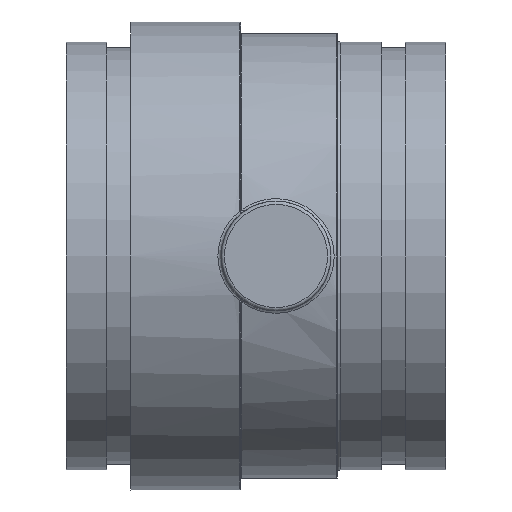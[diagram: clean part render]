
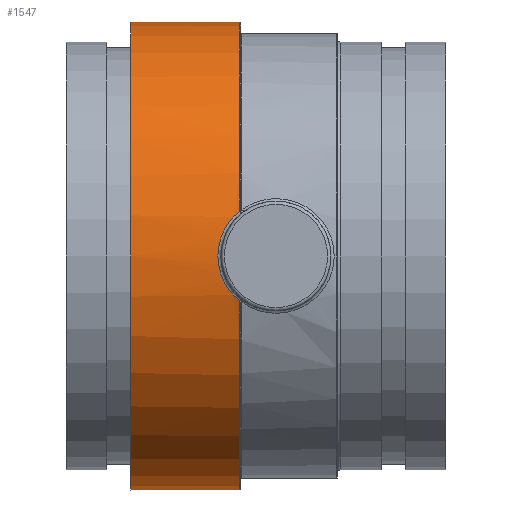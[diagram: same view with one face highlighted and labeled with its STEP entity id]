
A CAD part, front view. The second image highlights one B-rep face of the part: STEP entity #1547.
In plain terms, the highlighted cylindrical face has radius 92.075 mm (diameter 184.15 mm), a full revolution.
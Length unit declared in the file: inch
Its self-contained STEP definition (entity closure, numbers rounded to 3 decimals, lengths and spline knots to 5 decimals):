
#83=B_SPLINE_CURVE_WITH_KNOTS('',3,(#3012,#3013,#3014,#3015,#3016),
 .UNSPECIFIED.,.F.,.F.,(4,1,4),(-4.12867,-2.94905,-2.06457),
 .UNSPECIFIED.);
#84=B_SPLINE_CURVE_WITH_KNOTS('',3,(#3017,#3018,#3019,#3020,#3021,#3022),
 .UNSPECIFIED.,.F.,.F.,(4,1,1,4),(-2.06457,-1.76943,-0.58981,
0.),.UNSPECIFIED.);
#90=B_SPLINE_CURVE_WITH_KNOTS('',3,(#3196,#3197,#3198,#3199,#3200),
 .UNSPECIFIED.,.F.,.F.,(4,1,4),(0.,0.10365,0.24185),
 .UNSPECIFIED.);
#91=B_SPLINE_CURVE_WITH_KNOTS('',3,(#3204,#3205,#3206,#3207,#3208),
 .UNSPECIFIED.,.F.,.F.,(4,1,4),(0.,0.10365,0.24185),
 .UNSPECIFIED.);
#197=FACE_OUTER_BOUND('',#291,.T.);
#291=EDGE_LOOP('',(#1181,#1182,#1183,#1184,#1185,#1186,#1187,#1188,#1189,
#1190,#1191,#1192,#1193));
#395=LINE('',#3194,#460);
#396=LINE('',#3210,#461);
#397=LINE('',#3213,#462);
#460=VECTOR('',#2079,0.3937);
#461=VECTOR('',#2082,0.3937);
#462=VECTOR('',#2085,3.625);
#533=CIRCLE('',#1710,3.625);
#534=CIRCLE('',#1711,3.625);
#535=CIRCLE('',#1712,3.625);
#536=CIRCLE('',#1713,3.625);
#537=CIRCLE('',#1714,3.625);
#663=VERTEX_POINT('',#2949);
#665=VERTEX_POINT('',#3009);
#666=VERTEX_POINT('',#3011);
#686=VERTEX_POINT('',#3191);
#687=VERTEX_POINT('',#3193);
#688=VERTEX_POINT('',#3195);
#689=VERTEX_POINT('',#3201);
#690=VERTEX_POINT('',#3203);
#691=VERTEX_POINT('',#3209);
#692=VERTEX_POINT('',#3212);
#693=VERTEX_POINT('',#3214);
#837=EDGE_CURVE('',#665,#666,#83,.T.);
#838=EDGE_CURVE('',#666,#663,#84,.T.);
#870=EDGE_CURVE('',#686,#665,#533,.T.);
#871=EDGE_CURVE('',#687,#686,#395,.T.);
#872=EDGE_CURVE('',#688,#687,#90,.T.);
#873=EDGE_CURVE('',#689,#688,#534,.T.);
#874=EDGE_CURVE('',#690,#689,#91,.T.);
#875=EDGE_CURVE('',#691,#690,#396,.T.);
#876=EDGE_CURVE('',#663,#691,#535,.T.);
#877=EDGE_CURVE('',#666,#692,#397,.T.);
#878=EDGE_CURVE('',#692,#693,#536,.T.);
#879=EDGE_CURVE('',#693,#692,#537,.T.);
#1181=ORIENTED_EDGE('',*,*,#837,.F.);
#1182=ORIENTED_EDGE('',*,*,#870,.F.);
#1183=ORIENTED_EDGE('',*,*,#871,.F.);
#1184=ORIENTED_EDGE('',*,*,#872,.F.);
#1185=ORIENTED_EDGE('',*,*,#873,.F.);
#1186=ORIENTED_EDGE('',*,*,#874,.F.);
#1187=ORIENTED_EDGE('',*,*,#875,.F.);
#1188=ORIENTED_EDGE('',*,*,#876,.F.);
#1189=ORIENTED_EDGE('',*,*,#838,.F.);
#1190=ORIENTED_EDGE('',*,*,#877,.T.);
#1191=ORIENTED_EDGE('',*,*,#878,.T.);
#1192=ORIENTED_EDGE('',*,*,#879,.T.);
#1193=ORIENTED_EDGE('',*,*,#877,.F.);
#1394=CYLINDRICAL_SURFACE('',#1709,3.625);
#1547=ADVANCED_FACE('',(#197),#1394,.T.);
#1709=AXIS2_PLACEMENT_3D('',#3190,#2075,#2076);
#1710=AXIS2_PLACEMENT_3D('',#3192,#2077,#2078);
#1711=AXIS2_PLACEMENT_3D('',#3202,#2080,#2081);
#1712=AXIS2_PLACEMENT_3D('',#3211,#2083,#2084);
#1713=AXIS2_PLACEMENT_3D('',#3215,#2086,#2087);
#1714=AXIS2_PLACEMENT_3D('',#3216,#2088,#2089);
#2075=DIRECTION('center_axis',(1.,0.,0.));
#2076=DIRECTION('ref_axis',(0.,1.,0.));
#2077=DIRECTION('center_axis',(1.,0.,0.));
#2078=DIRECTION('ref_axis',(0.,-1.,0.));
#2079=DIRECTION('',(1.,0.,0.));
#2080=DIRECTION('center_axis',(1.,0.,0.));
#2081=DIRECTION('ref_axis',(0.,1.,0.));
#2082=DIRECTION('',(-1.,0.,0.));
#2083=DIRECTION('center_axis',(1.,0.,0.));
#2084=DIRECTION('ref_axis',(0.,-1.,0.));
#2085=DIRECTION('',(-1.,0.,0.));
#2086=DIRECTION('center_axis',(1.,0.,0.));
#2087=DIRECTION('ref_axis',(0.,0.,1.));
#2088=DIRECTION('center_axis',(1.,0.,0.));
#2089=DIRECTION('ref_axis',(0.,0.,1.));
#2949=CARTESIAN_POINT('',(-0.56,-3.55776,-0.69497));
#3009=CARTESIAN_POINT('',(-0.56,-3.55776,0.69497));
#3011=CARTESIAN_POINT('',(-0.9,-3.625,0.));
#3012=CARTESIAN_POINT('Ctrl Pts',(-0.56,-3.55776,
0.69497));
#3013=CARTESIAN_POINT('Ctrl Pts',(-0.6803,-3.57618,
0.60065));
#3014=CARTESIAN_POINT('Ctrl Pts',(-0.84714,-3.61198,
0.38187));
#3015=CARTESIAN_POINT('Ctrl Pts',(-0.89977,-3.62482,0.11447));
#3016=CARTESIAN_POINT('Ctrl Pts',(-0.89997,-3.62498,
0.));
#3017=CARTESIAN_POINT('Ctrl Pts',(-0.89997,-3.62498,
0.));
#3018=CARTESIAN_POINT('Ctrl Pts',(-0.90003,-3.62503,
-0.0382));
#3019=CARTESIAN_POINT('Ctrl Pts',(-0.88793,-3.62232,
-0.229));
#3020=CARTESIAN_POINT('Ctrl Pts',(-0.78219,-3.59626,
-0.48396));
#3021=CARTESIAN_POINT('Ctrl Pts',(-0.62015,-3.56697,
-0.64781));
#3022=CARTESIAN_POINT('Ctrl Pts',(-0.56,-3.55776,
-0.69497));
#3190=CARTESIAN_POINT('Origin',(-1.4,0.,0.));
#3191=CARTESIAN_POINT('',(-0.56,3.54488,0.75791));
#3192=CARTESIAN_POINT('Origin',(-0.56,0.,0.));
#3193=CARTESIAN_POINT('',(-0.7,3.54488,0.75791));
#3194=CARTESIAN_POINT('',(-1.4,3.54488,0.75791));
#3195=CARTESIAN_POINT('',(-0.76,3.55715,0.69807));
#3196=CARTESIAN_POINT('Ctrl Pts',(-0.76,3.55715,0.69807));
#3197=CARTESIAN_POINT('Ctrl Pts',(-0.76,3.55454,0.71139));
#3198=CARTESIAN_POINT('Ctrl Pts',(-0.74932,3.54821,0.7425));
#3199=CARTESIAN_POINT('Ctrl Pts',(-0.71814,3.54488,0.75791));
#3200=CARTESIAN_POINT('Ctrl Pts',(-0.7,3.54488,0.75791));
#3201=CARTESIAN_POINT('',(-0.76,3.55715,-0.69807));
#3202=CARTESIAN_POINT('Origin',(-0.76,0.,0.));
#3203=CARTESIAN_POINT('',(-0.7,3.54488,-0.75791));
#3204=CARTESIAN_POINT('Ctrl Pts',(-0.7,3.54488,-0.75791));
#3205=CARTESIAN_POINT('Ctrl Pts',(-0.7136,3.54488,-0.75791));
#3206=CARTESIAN_POINT('Ctrl Pts',(-0.74528,3.54733,-0.74663));
#3207=CARTESIAN_POINT('Ctrl Pts',(-0.76,3.55367,-0.71582));
#3208=CARTESIAN_POINT('Ctrl Pts',(-0.76,3.55715,-0.69807));
#3209=CARTESIAN_POINT('',(-0.56,3.54488,-0.75791));
#3210=CARTESIAN_POINT('',(-1.4,3.54488,-0.75791));
#3211=CARTESIAN_POINT('Origin',(-0.56,0.,0.));
#3212=CARTESIAN_POINT('',(-2.25,-3.625,0.));
#3213=CARTESIAN_POINT('',(-1.4,-3.625,0.));
#3214=CARTESIAN_POINT('',(-2.25,3.625,0.));
#3215=CARTESIAN_POINT('Origin',(-2.25,0.,0.));
#3216=CARTESIAN_POINT('Origin',(-2.25,0.,0.));
